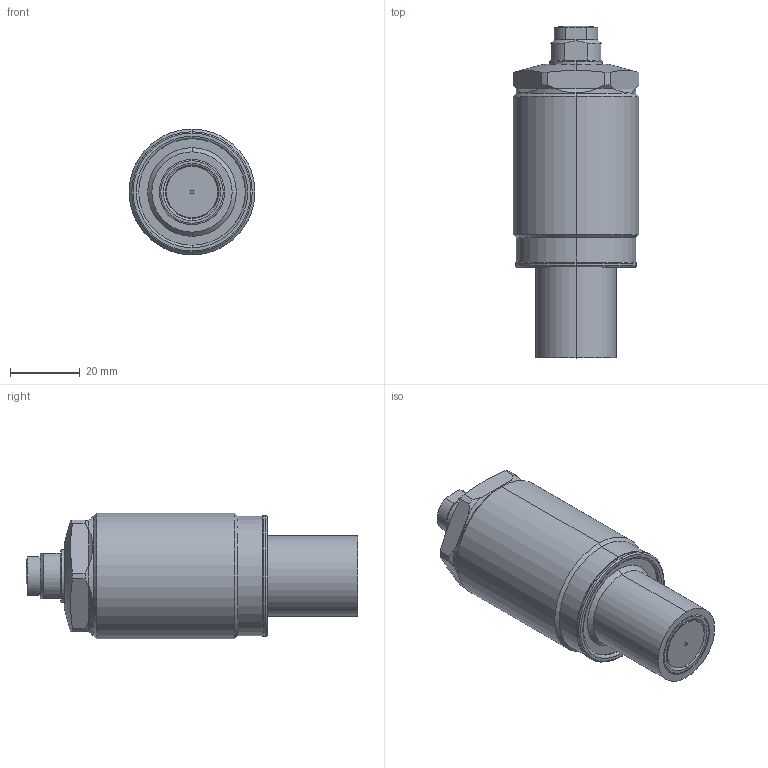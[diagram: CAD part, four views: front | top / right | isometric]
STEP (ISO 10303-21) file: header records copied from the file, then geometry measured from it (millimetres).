
FILE_DESCRIPTION(/* description */ (''),/* implementation_level */ '2;1');
FILE_NAME(/* name */ 'TSC36-Q_stp.stp',/* time_stamp */ '2024-11-02T12:34:12+08:00',/* author */ (''),/* organization */ (''),/* preprocessor_version */ 'ST-DEVELOPER v16.7',/* originating_system */ 'SIEMENS PLM Software NX 12.0',/* authorisation */ '');
FILE_SCHEMA (('AP203_CONFIGURATION_CONTROLLED_3D_DESIGN_OF_MECHANICAL_PARTS_AND_ASSEMBLIES_MIM_LF { 1 0 10303 403 2 1 2}'));
Length unit declared in the file: millimetre
Products named in the file (6): TSC36-Q-04; TSC36-Q-03; TSC36-Q-02; TSC36-Q-05; TSC36-Q-01; TSC04-Q_stp
Assembly tree (5 placements, depth 2):
  TSC04-Q_stp
    TSC36-Q-01
    TSC36-Q-05
    TSC36-Q-02
    TSC36-Q-03
    TSC36-Q-04
Bounding box: 36 x 95 x 36 mm (x, y, z)
Volume: 67393.5 mm3; surface area: 14375.3 mm2
Topology: 5 solids, 5 shells, 133 faces, 300 edges, 187 vertices
Faces by surface type: cylinder 48, plane 37, cone 26, torus 20, sphere 2
Entity records: 4471 total; most frequent: CARTESIAN_POINT 738, DIRECTION 706, ORIENTED_EDGE 600, AXIS2_PLACEMENT_3D 303, EDGE_CURVE 300, VERTEX_POINT 187, CIRCLE 164, EDGE_LOOP 149
